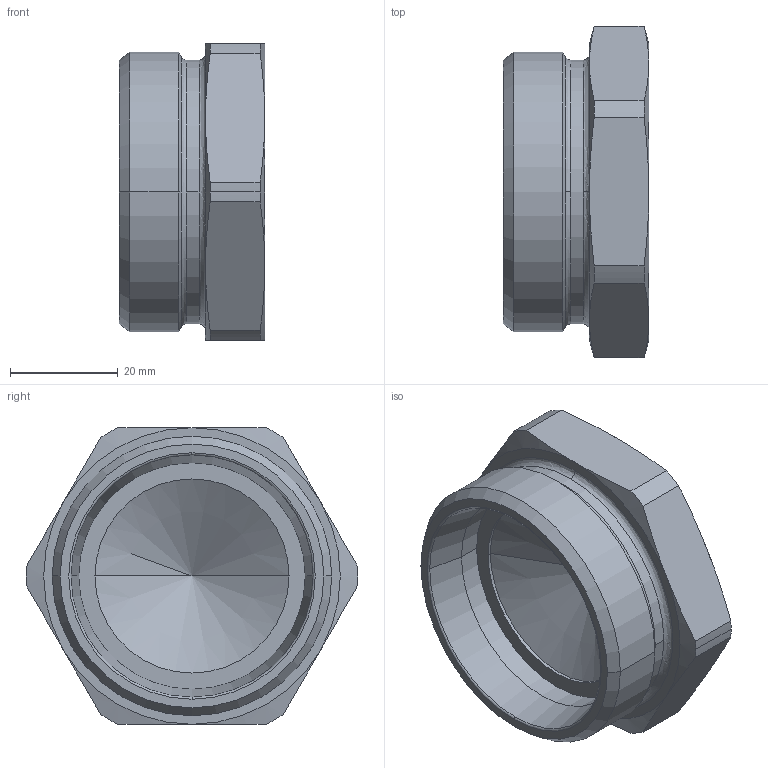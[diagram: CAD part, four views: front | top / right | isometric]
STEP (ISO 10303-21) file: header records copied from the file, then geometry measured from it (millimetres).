
FILE_DESCRIPTION((''),'2;1');
FILE_NAME('108013.stp','2007-10-31T16:30:07',(''),(''),'AutoCAD STEP 2000i','AutoCAD 2000i',', , ');
FILE_SCHEMA(('CONFIG_CONTROL_DESIGN'));
Length unit declared in the file: millimetre
Products named in the file (2): 108013.0; CHIAVE SMUSSATA#0
Assembly tree (1 placements, depth 2):
  108013.0
    CHIAVE SMUSSATA#0
Bounding box: 27 x 61.5 x 55 mm (x, y, z)
Volume: 40745.9 mm3; surface area: 11352.6 mm2
Topology: 1 solids, 1 shells, 52 faces, 126 edges, 77 vertices
Faces by surface type: cone 20, cylinder 16, plane 10, bspline 4, torus 2
Entity records: 1767 total; most frequent: CARTESIAN_POINT 479, DIRECTION 270, ORIENTED_EDGE 248, EDGE_CURVE 124, AXIS2_PLACEMENT_3D 120, VERTEX_POINT 77, CIRCLE 70, EDGE_LOOP 55
